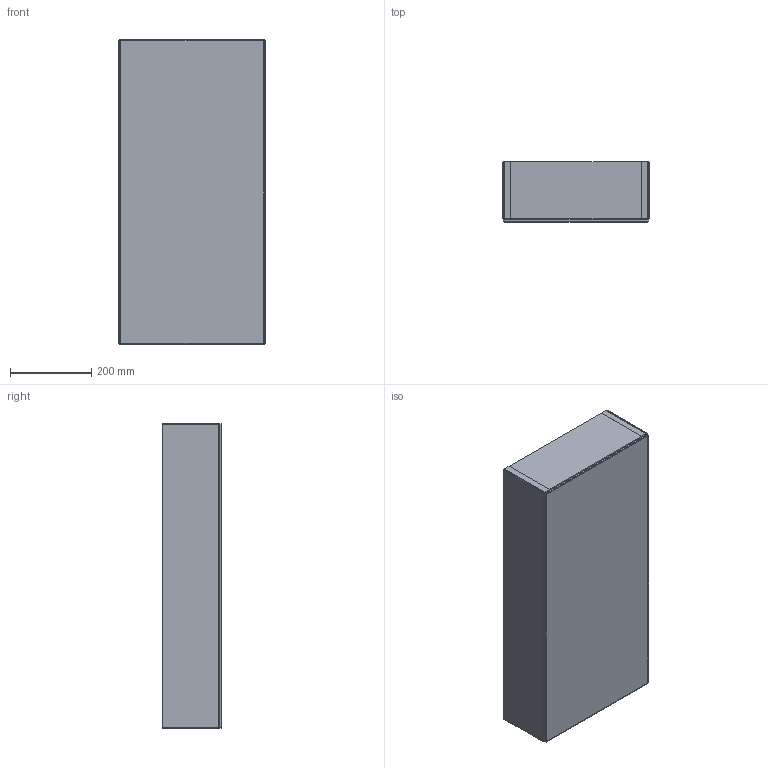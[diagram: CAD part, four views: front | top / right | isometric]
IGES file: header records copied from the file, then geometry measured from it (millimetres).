
Start section: Data from Parasolid IGES Translator 19.0.9, Copyright(c) 2006 Siemens PL M Software. All Rights Reserved.
Global section: file name: noorth-mirror-H 75 D 14,7 W 36_9051.igs; native system: By Siemens PLM Incorporated; preprocessor: XPlus GENERIC/IGES 19.0.9; author: Noname; organization: Noname; date: 20200519.094555; units: metre
Bounding box: 359.82 x 147 x 750 mm (x, y, z)
Volume: 8525292.8 mm3; surface area: 2316025.7 mm2
Topology: 11 solids, 11 shells, 170 faces, 324 edges, 176 vertices
Faces by surface type: plane 170
